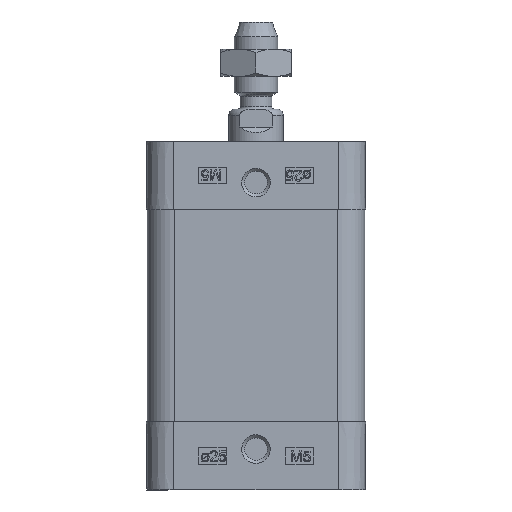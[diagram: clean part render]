
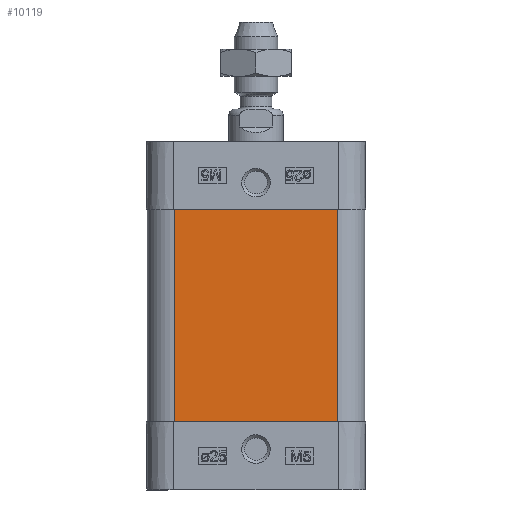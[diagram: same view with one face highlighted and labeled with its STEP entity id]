
A CAD part, left-side view. The second image highlights one B-rep face of the part: STEP entity #10119.
In plain terms, the highlighted planar face has unit normal (-1, 0, 0).
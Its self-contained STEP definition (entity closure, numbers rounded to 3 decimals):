
#933=LINE('',#18153,#1819);
#961=LINE('',#18266,#1847);
#1043=LINE('',#18486,#1929);
#1044=LINE('',#18488,#1930);
#1819=VECTOR('',#15385,1000.);
#1847=VECTOR('',#15471,1000.);
#1929=VECTOR('',#15717,1000.);
#1930=VECTOR('',#15720,1000.);
#3068=ORIENTED_EDGE('',*,*,#5704,.T.);
#3069=ORIENTED_EDGE('',*,*,#5870,.T.);
#3070=ORIENTED_EDGE('',*,*,#5871,.T.);
#3071=ORIENTED_EDGE('',*,*,#5760,.F.);
#5704=EDGE_CURVE('',#7165,#7166,#933,.T.);
#5760=EDGE_CURVE('',#7165,#7221,#961,.T.);
#5870=EDGE_CURVE('',#7166,#7276,#1043,.T.);
#5871=EDGE_CURVE('',#7276,#7221,#1044,.T.);
#7165=VERTEX_POINT('',#18154);
#7166=VERTEX_POINT('',#18155);
#7221=VERTEX_POINT('',#18267);
#7276=VERTEX_POINT('',#18485);
#8270=EDGE_LOOP('',(#3068,#3069,#3070,#3071));
#9044=FACE_BOUND('',#8270,.T.);
#9769=PLANE('',#14535);
#10119=ADVANCED_FACE('',(#9044),#9769,.T.);
#14535=AXIS2_PLACEMENT_3D('',#18487,#15718,#15719);
#15385=DIRECTION('',(0.,0.,-1.));
#15471=DIRECTION('',(0.,-1.,0.));
#15717=DIRECTION('',(0.,-1.,0.));
#15718=DIRECTION('',(-1.,0.,0.));
#15719=DIRECTION('',(0.,0.,1.));
#15720=DIRECTION('',(0.,0.,1.));
#18153=CARTESIAN_POINT('',(-20.,29.5,15.));
#18154=CARTESIAN_POINT('',(-20.,29.5,15.));
#18155=CARTESIAN_POINT('',(-20.,29.5,-15.));
#18266=CARTESIAN_POINT('',(-20.,0.,15.));
#18267=CARTESIAN_POINT('',(-20.,-9.5,15.));
#18485=CARTESIAN_POINT('',(-20.,-9.5,-15.));
#18486=CARTESIAN_POINT('',(-20.,0.,-15.));
#18487=CARTESIAN_POINT('',(-20.,0.,15.));
#18488=CARTESIAN_POINT('',(-20.,-9.5,15.));
